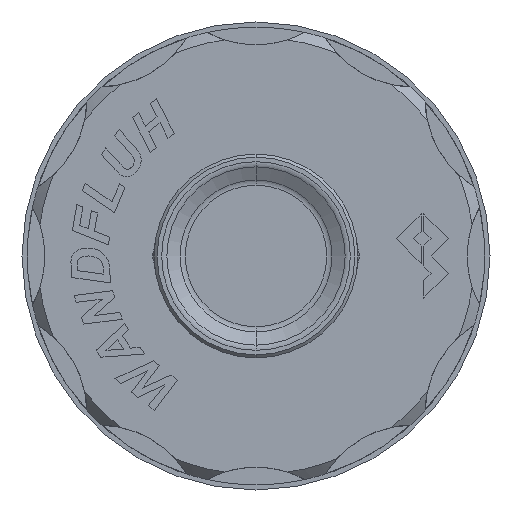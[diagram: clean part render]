
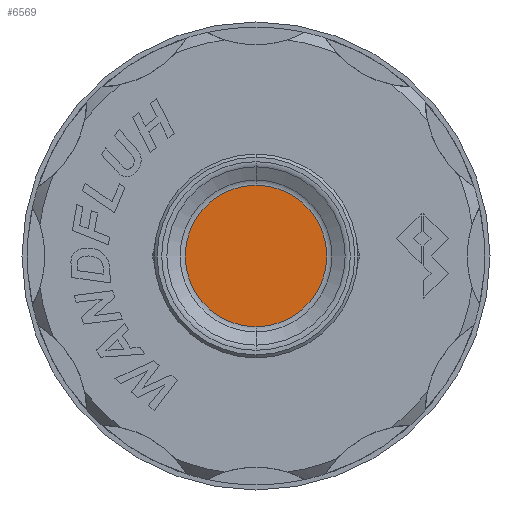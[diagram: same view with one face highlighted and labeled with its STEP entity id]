
A CAD part, left-side view. The second image highlights one B-rep face of the part: STEP entity #6569.
In plain terms, the highlighted planar face has unit normal (-1, 0, 0).
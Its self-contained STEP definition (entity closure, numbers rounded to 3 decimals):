
#309 = DIRECTION ( 'NONE',  ( 0., 0., -1. ) ) ;
#325 = DIRECTION ( 'NONE',  ( 1., 0., 0. ) ) ;
#344 = CARTESIAN_POINT ( 'NONE',  ( -63.9, 0., 0. ) ) ;
#1029 = CARTESIAN_POINT ( 'NONE',  ( -63.9, 0., -6.8 ) ) ;
#2270 = AXIS2_PLACEMENT_3D ( 'NONE', #6599, #6588, #6587 ) ;
#2571 = CIRCLE ( 'NONE', #2270, 6.8 ) ;
#2783 = AXIS2_PLACEMENT_3D ( 'NONE', #344, #325, #309 ) ;
#3296 = AXIS2_PLACEMENT_3D ( 'NONE', #3999, #3988, #3968 ) ;
#3795 = CIRCLE ( 'NONE', #2783, 6.8 ) ;
#3968 = DIRECTION ( 'NONE',  ( 0., 0., -1. ) ) ;
#3988 = DIRECTION ( 'NONE',  ( 1., 0., 0. ) ) ;
#3999 = CARTESIAN_POINT ( 'NONE',  ( -63.9, 6.8, 0. ) ) ;
#4113 = PLANE ( 'NONE',  #3296 ) ;
#4987 = FACE_OUTER_BOUND ( 'NONE', #9244, .T. ) ;
#5775 = ORIENTED_EDGE ( 'NONE', *, *, #7140, .F. ) ;
#6227 = ORIENTED_EDGE ( 'NONE', *, *, #7438, .F. ) ;
#6569 = ADVANCED_FACE ( 'NONE', ( #4987 ), #4113, .F. ) ;
#6587 = DIRECTION ( 'NONE',  ( 0., 0., -1. ) ) ;
#6588 = DIRECTION ( 'NONE',  ( 1., 0., 0. ) ) ;
#6599 = CARTESIAN_POINT ( 'NONE',  ( -63.9, 0., 0. ) ) ;
#6922 = CARTESIAN_POINT ( 'NONE',  ( -63.9, 0., 6.8 ) ) ;
#7140 = EDGE_CURVE ( 'NONE', #8419, #7823, #3795, .T. ) ;
#7438 = EDGE_CURVE ( 'NONE', #7823, #8419, #2571, .T. ) ;
#7823 = VERTEX_POINT ( 'NONE', #1029 ) ;
#8419 = VERTEX_POINT ( 'NONE', #6922 ) ;
#9244 = EDGE_LOOP ( 'NONE', ( #6227, #5775 ) ) ;
